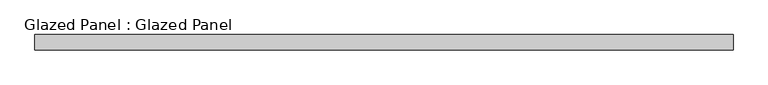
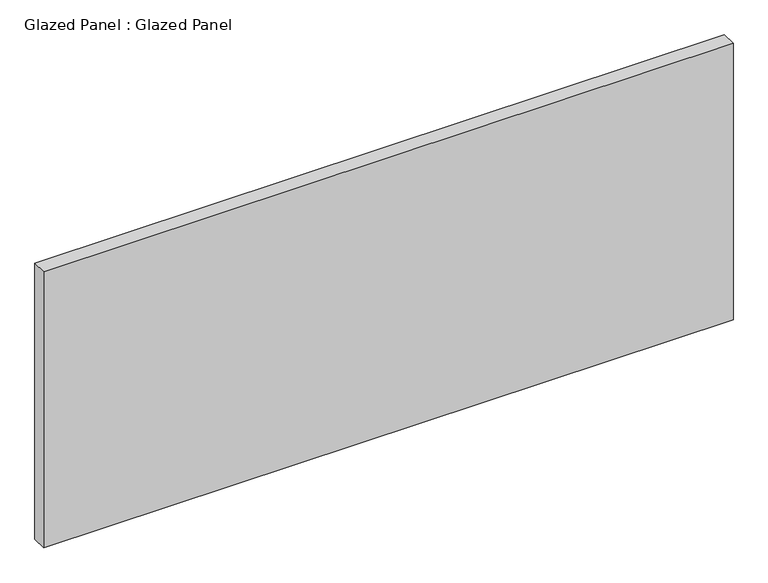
"""IFC4 building model written with IfcOpenShell, lengths in millimetres: plate geometry, Glazed Panel : Glazed Panel."""

from ifc_helpers import new_model, si_unit, origin, origin_with_axes, place, context, project, spatial, polyline, outline, extrude, source, transform, mapped, element, save


def glazed_panel_glazed_panel_b9808961(model_context):
    return source(origin(), model_context, "Body", "SweptSolid", [
        extrude(outline(polyline([(584.9807766, 38.1), (-584.9807766, 38.1), (-584.9807766, 63.5), (584.9807766, 63.5), (584.9807766, 38.1)])), origin_with_axes(), (0.0, 0.0, 1.0), 495.1124715),
    ])


if __name__ == "__main__":
    model = new_model("IFC4")
    model_context = context("Model", 3, world=origin())
    ifc_project = project(units=[si_unit("LENGTHUNIT", "METRE", prefix="MILLI")], contexts=[model_context])
    site = spatial("IfcSite", under=ifc_project)
    building = spatial("IfcBuilding", under=site)
    placement = place(None, origin())
    glazed_panel_glazed_panel_shape = glazed_panel_glazed_panel_b9808961(model_context)
    element("IfcPlate", 1, ObjectType="Glazed Panel : Glazed Panel", at=placement, inside=building, context=model_context, shape_type="MappedRepresentation", body=[
        mapped(glazed_panel_glazed_panel_shape, transform((0.0, 0.0, 0.0), x_axis=(1.0, 0.0, 0.0), y_axis=(0.0, 1.0, 0.0), z_axis=(0.0, 0.0, 1.0))),
    ])
    save(model, "model.ifc")
